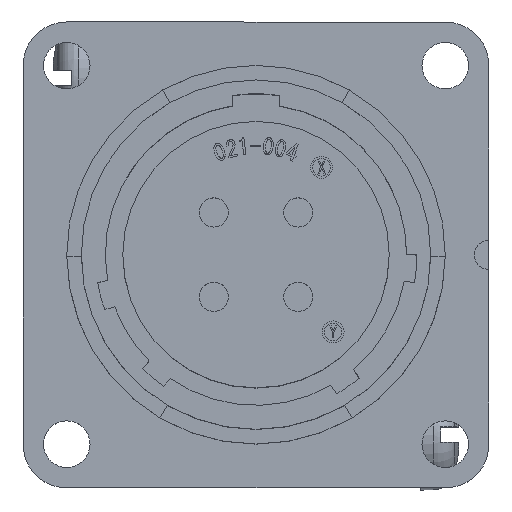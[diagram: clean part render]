
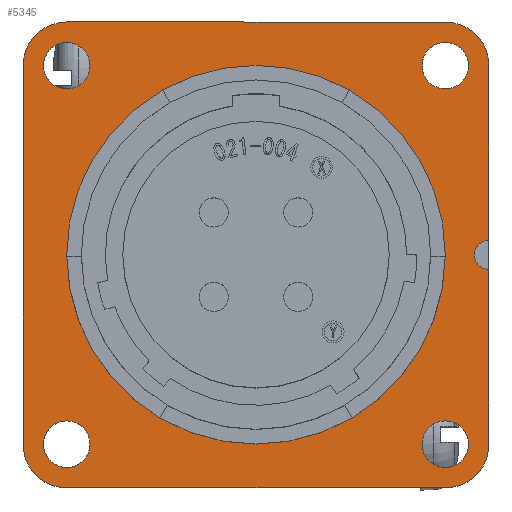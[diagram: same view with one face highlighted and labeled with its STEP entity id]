
A CAD part, top view. The second image highlights one B-rep face of the part: STEP entity #5345.
In plain terms, the highlighted planar face has unit normal (0, 0, 1).
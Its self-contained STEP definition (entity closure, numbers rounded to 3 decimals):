
#132 = DIRECTION ( 'NONE',  ( 1., 0., 0. ) ) ;
#134 = FACE_BOUND ( 'NONE', #14561, .T. ) ;
#197 = CIRCLE ( 'NONE', #1055, 1.6 ) ;
#448 = VECTOR ( 'NONE', #9337, 1000. ) ;
#502 = EDGE_CURVE ( 'NONE', #6809, #10467, #5940, .T. ) ;
#643 = CARTESIAN_POINT ( 'NONE',  ( -13., -13., -10.5 ) ) ;
#1055 = AXIS2_PLACEMENT_3D ( 'NONE', #16510, #6180, #14845 ) ;
#1181 = AXIS2_PLACEMENT_3D ( 'NONE', #11408, #12795, #2500 ) ;
#1651 = VECTOR ( 'NONE', #6221, 1000. ) ;
#1686 = EDGE_CURVE ( 'NONE', #7828, #4504, #17762, .T. ) ;
#2099 = VECTOR ( 'NONE', #5843, 1000. ) ;
#2333 = CARTESIAN_POINT ( 'NONE',  ( 16., -13., -10.5 ) ) ;
#2407 = CARTESIAN_POINT ( 'NONE',  ( 16., 0., -10.5 ) ) ;
#2484 = DIRECTION ( 'NONE',  ( 0., 0., 1. ) ) ;
#2500 = DIRECTION ( 'NONE',  ( 1., 0., 0. ) ) ;
#2571 = CARTESIAN_POINT ( 'NONE',  ( 16., -1., -10.5 ) ) ;
#3015 = CARTESIAN_POINT ( 'NONE',  ( -16., 13., -10.5 ) ) ;
#3092 = EDGE_CURVE ( 'NONE', #6046, #6046, #197, .T. ) ;
#3387 = CARTESIAN_POINT ( 'NONE',  ( -13., -16., -10.5 ) ) ;
#3482 = DIRECTION ( 'NONE',  ( -1., 0., 0. ) ) ;
#3719 = EDGE_CURVE ( 'NONE', #13433, #17545, #12030, .T. ) ;
#3868 = CARTESIAN_POINT ( 'NONE',  ( 14.6, -13., -10.5 ) ) ;
#3983 = ORIENTED_EDGE ( 'NONE', *, *, #6277, .T. ) ;
#4065 = ORIENTED_EDGE ( 'NONE', *, *, #18862, .T. ) ;
#4238 = CARTESIAN_POINT ( 'NONE',  ( -13., 16., -10.5 ) ) ;
#4252 = DIRECTION ( 'NONE',  ( -1., 0., 0. ) ) ;
#4480 = ORIENTED_EDGE ( 'NONE', *, *, #21523, .T. ) ;
#4504 = VERTEX_POINT ( 'NONE', #6032 ) ;
#4608 = EDGE_CURVE ( 'NONE', #8704, #5931, #5315, .T. ) ;
#4807 = EDGE_LOOP ( 'NONE', ( #4480 ) ) ;
#5283 = CARTESIAN_POINT ( 'NONE',  ( 13., 13., -10.5 ) ) ;
#5315 = LINE ( 'NONE', #21159, #448 ) ;
#5345 = ADVANCED_FACE ( 'NONE', ( #8202, #134, #14678, #22252, #10082, #16848 ), #18591, .F. ) ;
#5843 = DIRECTION ( 'NONE',  ( 0., -1., 0. ) ) ;
#5931 = VERTEX_POINT ( 'NONE', #3015 ) ;
#5940 = LINE ( 'NONE', #7869, #1651 ) ;
#5943 = DIRECTION ( 'NONE',  ( 0., 0., -1. ) ) ;
#5993 = EDGE_CURVE ( 'NONE', #21414, #21414, #19477, .T. ) ;
#6032 = CARTESIAN_POINT ( 'NONE',  ( 13., 16., -10.5 ) ) ;
#6046 = VERTEX_POINT ( 'NONE', #17890 ) ;
#6074 = VERTEX_POINT ( 'NONE', #10362 ) ;
#6180 = DIRECTION ( 'NONE',  ( 0., 0., -1. ) ) ;
#6186 = DIRECTION ( 'NONE',  ( 0., 0., 1. ) ) ;
#6221 = DIRECTION ( 'NONE',  ( 0., -1., 0. ) ) ;
#6277 = EDGE_CURVE ( 'NONE', #8704, #6547, #6803, .T. ) ;
#6286 = CIRCLE ( 'NONE', #1181, 1. ) ;
#6348 = EDGE_CURVE ( 'NONE', #6074, #6547, #18690, .T. ) ;
#6460 = DIRECTION ( 'NONE',  ( 0., 0., -1. ) ) ;
#6547 = VERTEX_POINT ( 'NONE', #3387 ) ;
#6803 = CIRCLE ( 'NONE', #19860, 3. ) ;
#6809 = VERTEX_POINT ( 'NONE', #2571 ) ;
#6943 = CARTESIAN_POINT ( 'NONE',  ( 13., -13., -10.5 ) ) ;
#7234 = DIRECTION ( 'NONE',  ( -1., 0., 0. ) ) ;
#7828 = VERTEX_POINT ( 'NONE', #4238 ) ;
#7869 = CARTESIAN_POINT ( 'NONE',  ( 16., 0., -10.5 ) ) ;
#8202 = FACE_OUTER_BOUND ( 'NONE', #12289, .T. ) ;
#8208 = EDGE_CURVE ( 'NONE', #4504, #13433, #14758, .T. ) ;
#8704 = VERTEX_POINT ( 'NONE', #22320 ) ;
#8759 = EDGE_CURVE ( 'NONE', #11418, #11418, #10760, .T. ) ;
#9041 = ORIENTED_EDGE ( 'NONE', *, *, #8208, .F. ) ;
#9194 = EDGE_CURVE ( 'NONE', #7828, #5931, #14797, .T. ) ;
#9274 = DIRECTION ( 'NONE',  ( 0., -1., 0. ) ) ;
#9279 = VERTEX_POINT ( 'NONE', #12905 ) ;
#9337 = DIRECTION ( 'NONE',  ( 0., 1., 0. ) ) ;
#9665 = CARTESIAN_POINT ( 'NONE',  ( -13., -14.6, -10.5 ) ) ;
#10074 = AXIS2_PLACEMENT_3D ( 'NONE', #6943, #10398, #7234 ) ;
#10082 = FACE_BOUND ( 'NONE', #13586, .T. ) ;
#10095 = ORIENTED_EDGE ( 'NONE', *, *, #1686, .F. ) ;
#10362 = CARTESIAN_POINT ( 'NONE',  ( 13., -16., -10.5 ) ) ;
#10398 = DIRECTION ( 'NONE',  ( 0., 0., 1. ) ) ;
#10467 = VERTEX_POINT ( 'NONE', #2333 ) ;
#10495 = ORIENTED_EDGE ( 'NONE', *, *, #21944, .T. ) ;
#10760 = CIRCLE ( 'NONE', #17706, 1.6 ) ;
#10830 = CARTESIAN_POINT ( 'NONE',  ( -13., 13., -10.5 ) ) ;
#11014 = CARTESIAN_POINT ( 'NONE',  ( 0., -16., -10.5 ) ) ;
#11408 = CARTESIAN_POINT ( 'NONE',  ( 16., 0., -10.5 ) ) ;
#11418 = VERTEX_POINT ( 'NONE', #14272 ) ;
#11643 = DIRECTION ( 'NONE',  ( -1., 0., 0. ) ) ;
#12004 = ORIENTED_EDGE ( 'NONE', *, *, #3092, .T. ) ;
#12030 = LINE ( 'NONE', #2407, #2099 ) ;
#12289 = EDGE_LOOP ( 'NONE', ( #18180, #16646, #17899, #9041, #10095, #21158, #16906, #3983, #16740, #10495 ) ) ;
#12468 = CARTESIAN_POINT ( 'NONE',  ( 16., 1., -10.5 ) ) ;
#12502 = ORIENTED_EDGE ( 'NONE', *, *, #8759, .T. ) ;
#12732 = DIRECTION ( 'NONE',  ( 0., 0., -1. ) ) ;
#12738 = CARTESIAN_POINT ( 'NONE',  ( -13., -13., -10.5 ) ) ;
#12795 = DIRECTION ( 'NONE',  ( 0., 0., 1. ) ) ;
#12905 = CARTESIAN_POINT ( 'NONE',  ( -13., 0., -10.5 ) ) ;
#13323 = EDGE_CURVE ( 'NONE', #17545, #6809, #6286, .T. ) ;
#13385 = DIRECTION ( 'NONE',  ( 0., 0., -1. ) ) ;
#13433 = VERTEX_POINT ( 'NONE', #18550 ) ;
#13574 = VERTEX_POINT ( 'NONE', #9665 ) ;
#13586 = EDGE_LOOP ( 'NONE', ( #19934 ) ) ;
#13887 = CIRCLE ( 'NONE', #21300, 13. ) ;
#14272 = CARTESIAN_POINT ( 'NONE',  ( -14.6, 13., -10.5 ) ) ;
#14282 = AXIS2_PLACEMENT_3D ( 'NONE', #12738, #5943, #9274 ) ;
#14361 = VECTOR ( 'NONE', #4252, 1000. ) ;
#14561 = EDGE_LOOP ( 'NONE', ( #4065 ) ) ;
#14678 = FACE_BOUND ( 'NONE', #21379, .T. ) ;
#14758 = CIRCLE ( 'NONE', #18015, 3. ) ;
#14797 = CIRCLE ( 'NONE', #15993, 3. ) ;
#14845 = DIRECTION ( 'NONE',  ( 0., 1., 0. ) ) ;
#15689 = DIRECTION ( 'NONE',  ( 0., 0., -1. ) ) ;
#15993 = AXIS2_PLACEMENT_3D ( 'NONE', #21729, #6186, #20064 ) ;
#16413 = VECTOR ( 'NONE', #132, 1000. ) ;
#16510 = CARTESIAN_POINT ( 'NONE',  ( 13., 13., -10.5 ) ) ;
#16646 = ORIENTED_EDGE ( 'NONE', *, *, #13323, .F. ) ;
#16692 = DIRECTION ( 'NONE',  ( 0., 0., -1. ) ) ;
#16740 = ORIENTED_EDGE ( 'NONE', *, *, #6348, .F. ) ;
#16848 = FACE_BOUND ( 'NONE', #4807, .T. ) ;
#16906 = ORIENTED_EDGE ( 'NONE', *, *, #4608, .F. ) ;
#17545 = VERTEX_POINT ( 'NONE', #12468 ) ;
#17706 = AXIS2_PLACEMENT_3D ( 'NONE', #10830, #12732, #19510 ) ;
#17762 = LINE ( 'NONE', #20771, #16413 ) ;
#17890 = CARTESIAN_POINT ( 'NONE',  ( 13., 14.6, -10.5 ) ) ;
#17899 = ORIENTED_EDGE ( 'NONE', *, *, #3719, .F. ) ;
#18015 = AXIS2_PLACEMENT_3D ( 'NONE', #5283, #15689, #3482 ) ;
#18180 = ORIENTED_EDGE ( 'NONE', *, *, #502, .F. ) ;
#18410 = AXIS2_PLACEMENT_3D ( 'NONE', #20099, #13385, #22147 ) ;
#18550 = CARTESIAN_POINT ( 'NONE',  ( 16., 13., -10.5 ) ) ;
#18591 = PLANE ( 'NONE',  #22013 ) ;
#18690 = LINE ( 'NONE', #11014, #14361 ) ;
#18765 = CIRCLE ( 'NONE', #10074, 3. ) ;
#18862 = EDGE_CURVE ( 'NONE', #9279, #9279, #13887, .T. ) ;
#19051 = CIRCLE ( 'NONE', #14282, 1.6 ) ;
#19477 = CIRCLE ( 'NONE', #18410, 1.6 ) ;
#19482 = DIRECTION ( 'NONE',  ( -1., 0., 0. ) ) ;
#19510 = DIRECTION ( 'NONE',  ( -1., 0., 0. ) ) ;
#19860 = AXIS2_PLACEMENT_3D ( 'NONE', #643, #2484, #19482 ) ;
#19934 = ORIENTED_EDGE ( 'NONE', *, *, #5993, .T. ) ;
#20064 = DIRECTION ( 'NONE',  ( -1., 0., 0. ) ) ;
#20099 = CARTESIAN_POINT ( 'NONE',  ( 13., -13., -10.5 ) ) ;
#20771 = CARTESIAN_POINT ( 'NONE',  ( 0., 16., -10.5 ) ) ;
#21158 = ORIENTED_EDGE ( 'NONE', *, *, #9194, .T. ) ;
#21159 = CARTESIAN_POINT ( 'NONE',  ( -16., 0., -10.5 ) ) ;
#21300 = AXIS2_PLACEMENT_3D ( 'NONE', #21934, #6460, #22014 ) ;
#21379 = EDGE_LOOP ( 'NONE', ( #12502 ) ) ;
#21414 = VERTEX_POINT ( 'NONE', #3868 ) ;
#21523 = EDGE_CURVE ( 'NONE', #13574, #13574, #19051, .T. ) ;
#21729 = CARTESIAN_POINT ( 'NONE',  ( -13., 13., -10.5 ) ) ;
#21848 = EDGE_LOOP ( 'NONE', ( #12004 ) ) ;
#21934 = CARTESIAN_POINT ( 'NONE',  ( 0., 0., -10.5 ) ) ;
#21944 = EDGE_CURVE ( 'NONE', #6074, #10467, #18765, .T. ) ;
#21982 = CARTESIAN_POINT ( 'NONE',  ( 0., 16., -10.5 ) ) ;
#22013 = AXIS2_PLACEMENT_3D ( 'NONE', #21982, #16692, #11643 ) ;
#22014 = DIRECTION ( 'NONE',  ( -1., 0., 0. ) ) ;
#22147 = DIRECTION ( 'NONE',  ( 1., 0., 0. ) ) ;
#22252 = FACE_BOUND ( 'NONE', #21848, .T. ) ;
#22320 = CARTESIAN_POINT ( 'NONE',  ( -16., -13., -10.5 ) ) ;
